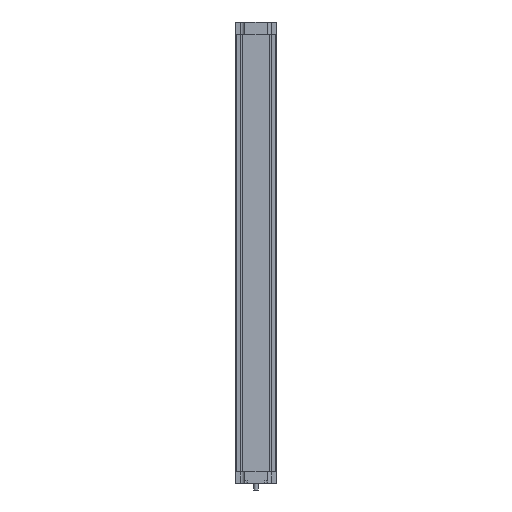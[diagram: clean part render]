
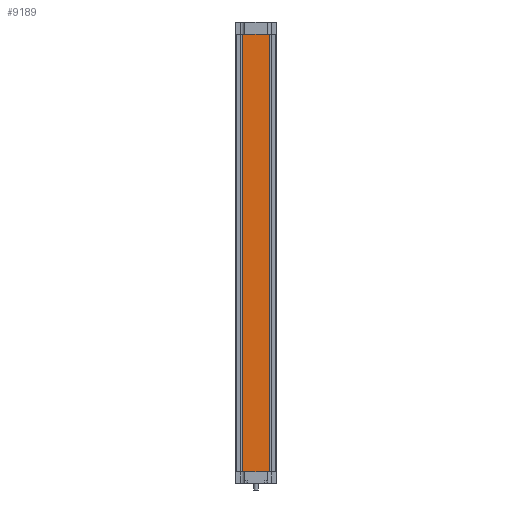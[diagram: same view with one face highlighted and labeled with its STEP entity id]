
A CAD part, front view. The second image highlights one B-rep face of the part: STEP entity #9189.
In plain terms, the highlighted planar face has unit normal (0, -1, 0).
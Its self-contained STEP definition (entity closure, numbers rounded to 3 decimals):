
#3351 = CARTESIAN_POINT ( 'NONE',  ( -65., -48.75, 2180. ) ) ;
#3385 = LINE ( 'NONE', #3438, #3437 ) ;
#3436 = DIRECTION ( 'NONE',  ( 1., 0., 0. ) ) ;
#3437 = VECTOR ( 'NONE', #3436, 1000. ) ;
#3438 = CARTESIAN_POINT ( 'NONE',  ( -65., -48.75, 2180. ) ) ;
#3439 = CARTESIAN_POINT ( 'NONE',  ( 65., -48.75, 2180. ) ) ;
#5709 = CARTESIAN_POINT ( 'NONE',  ( 65., -48.75, 0. ) ) ;
#5767 = CARTESIAN_POINT ( 'NONE',  ( 65., -48.75, 2180. ) ) ;
#5768 = LINE ( 'NONE', #5767, #5803 ) ;
#5802 = DIRECTION ( 'NONE',  ( 0., 0., -1. ) ) ;
#5803 = VECTOR ( 'NONE', #5802, 1000. ) ;
#5844 = DIRECTION ( 'NONE',  ( -1., 0., 0. ) ) ;
#5845 = DIRECTION ( 'NONE',  ( 0., 1., 0. ) ) ;
#5846 = CARTESIAN_POINT ( 'NONE',  ( -65., -48.75, 2180. ) ) ;
#5847 = AXIS2_PLACEMENT_3D ( 'NONE', #5846, #5845, #5844 ) ;
#5850 = PLANE ( 'NONE',  #5847 ) ;
#5856 = FACE_OUTER_BOUND ( 'NONE', #9186, .T. ) ;
#5874 = DIRECTION ( 'NONE',  ( 0., 0., -1. ) ) ;
#5877 = VECTOR ( 'NONE', #5874, 1000. ) ;
#5878 = CARTESIAN_POINT ( 'NONE',  ( -65., -48.75, 2180. ) ) ;
#5879 = LINE ( 'NONE', #5878, #5877 ) ;
#5881 = CARTESIAN_POINT ( 'NONE',  ( -65., -48.75, 0. ) ) ;
#5886 = DIRECTION ( 'NONE',  ( 1., 0., 0. ) ) ;
#5887 = VECTOR ( 'NONE', #5886, 1000. ) ;
#5888 = CARTESIAN_POINT ( 'NONE',  ( -65., -48.75, 0. ) ) ;
#5889 = LINE ( 'NONE', #5888, #5887 ) ;
#7609 = VERTEX_POINT ( 'NONE', #3351 ) ;
#7625 = EDGE_CURVE ( 'NONE', #7609, #7626, #3385, .T. ) ;
#7626 = VERTEX_POINT ( 'NONE', #3439 ) ;
#9125 = VERTEX_POINT ( 'NONE', #5709 ) ;
#9177 = ORIENTED_EDGE ( 'NONE', *, *, #9205, .T. ) ;
#9178 = ORIENTED_EDGE ( 'NONE', *, *, #9196, .T. ) ;
#9185 = EDGE_CURVE ( 'NONE', #7626, #9125, #5768, .T. ) ;
#9186 = EDGE_LOOP ( 'NONE', ( #9178, #9203, #9202, #9177 ) ) ;
#9189 = ADVANCED_FACE ( 'NONE', ( #5856 ), #5850, .F. ) ;
#9196 = EDGE_CURVE ( 'NONE', #9201, #9125, #5889, .T. ) ;
#9201 = VERTEX_POINT ( 'NONE', #5881 ) ;
#9202 = ORIENTED_EDGE ( 'NONE', *, *, #7625, .F. ) ;
#9203 = ORIENTED_EDGE ( 'NONE', *, *, #9185, .F. ) ;
#9205 = EDGE_CURVE ( 'NONE', #7609, #9201, #5879, .T. ) ;
